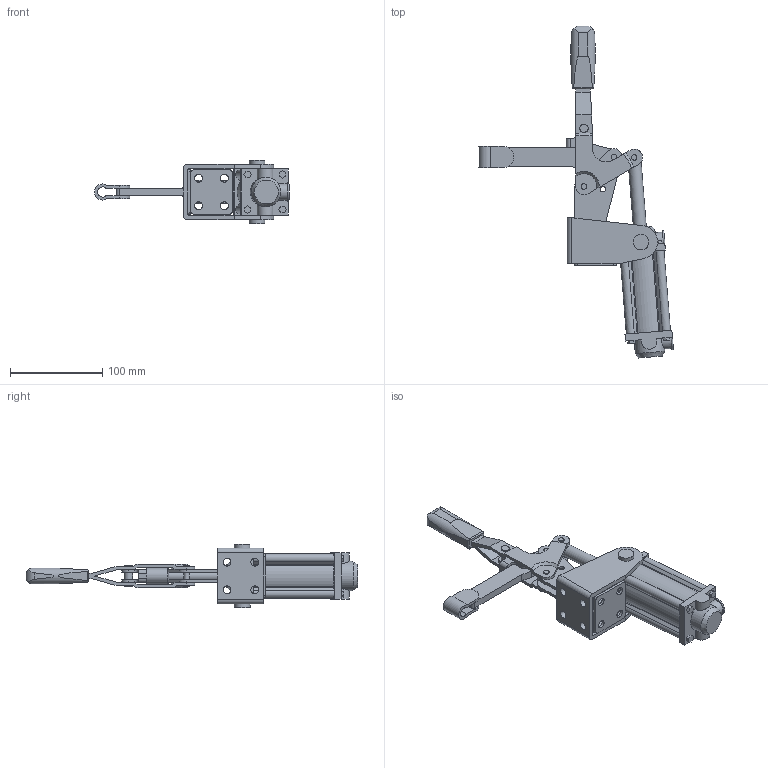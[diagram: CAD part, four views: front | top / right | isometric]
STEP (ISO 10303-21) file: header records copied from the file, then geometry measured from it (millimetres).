
FILE_DESCRIPTION( ( 'STEP AP203' ), '1' );
FILE_NAME( 'C:/Temp/Ganter_Step_05_03_2020/data/2_4/gn862_1/gn862_1_epv3s/gn862_1_epv3s_m/Toggle clamp GN 862.1-300-EPV3S-M (closed).stp', '2020-03-13T05:50:15', ( 'License CC BY-ND 4.0' ), ( 'CADENAS' ), ' ', 'PARTsolutions', ' ' );
FILE_SCHEMA( ( 'CONFIG_CONTROL_DESIGN' ) );
Length unit declared in the file: millimetre
Products named in the file (8): Toggle clamp GN 862.1-300-EPV3S-M (closed); _Toggle clamp GN 862.1-300-EPV3S-M-1; _Toggle clamp GN 862.1-300-EPV3S-M (0)-5; _Toggle clamp GN 862.1-300-EPV3S-M (0)-4; _Toggle clamp GN 862.1-300-EPV3S-M (0)-2; _Toggle clamp GN 862.1-300-EPV3S-M-6; _Toggle clamp GN 862.1-300-EPV3S-M (0)-3; _Toggle clamp GN 862.1-300-EPV3S-M-7
Assembly tree (7 placements, depth 2):
  Toggle clamp GN 862.1-300-EPV3S-M (closed)
    _Toggle clamp GN 862.1-300-EPV3S-M-1
    _Toggle clamp GN 862.1-300-EPV3S-M (0)-5
    _Toggle clamp GN 862.1-300-EPV3S-M (0)-4
    _Toggle clamp GN 862.1-300-EPV3S-M (0)-2
    _Toggle clamp GN 862.1-300-EPV3S-M-6
    _Toggle clamp GN 862.1-300-EPV3S-M (0)-3
    _Toggle clamp GN 862.1-300-EPV3S-M-7
Bounding box: 211.17 x 360 x 68.5 mm (x, y, z)
Volume: 307918 mm3; surface area: 141741.6 mm2
Topology: 7 solids, 7 shells, 354 faces, 936 edges, 621 vertices
Faces by surface type: plane 217, cylinder 116, cone 19, torus 2
Full cylindrical faces by diameter (mm): 6 x17, 8.5 x8, 9 x5, 11.445 x2, 14 x1, 14.02 x1, 17 x4, 22 x2, 22.02 x1, 32 x2, 40 x1
Entity records: 11607 total; most frequent: CARTESIAN_POINT 2647, DIRECTION 1792, ORIENTED_EDGE 1734, EDGE_CURVE 867, AXIS2_PLACEMENT_3D 619, VERTEX_POINT 604, LINE 554, VECTOR 554
